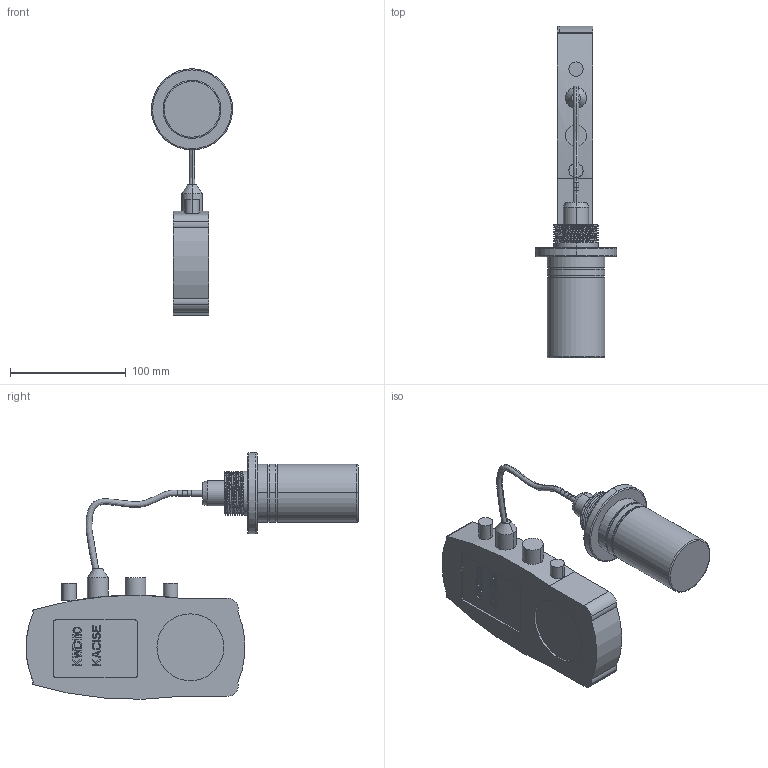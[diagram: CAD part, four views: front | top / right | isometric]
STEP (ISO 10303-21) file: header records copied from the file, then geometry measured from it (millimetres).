
FILE_DESCRIPTION((''),'2;1');
FILE_NAME('ASM0012_ASM','2025-12-29T17:39:20',('28740194'),(''),'CREO PARAMETRIC BY PTC INC, 2024063','CREO PARAMETRIC BY PTC INC, 2024063','');
FILE_SCHEMA(('CONFIG_CONTROL_DESIGN'));
Length unit declared in the file: millimetre
Products named in the file (3): KWD-100; KWS-W50; ASM0012_ASM
Assembly tree (2 placements, depth 2):
  ASM0012_ASM
    KWD-100
    KWS-W50
Bounding box: 69.99 x 286.25 x 212.54 mm (x, y, z)
Volume: 697976.7 mm3; surface area: 80642.1 mm2
Topology: 2 solids, 2 shells, 372 faces, 992 edges, 653 vertices
Faces by surface type: plane 286, cylinder 61, bspline 15, torus 6, cone 4
Entity records: 16081 total; most frequent: CARTESIAN_POINT 6802, ORIENTED_EDGE 1984, DIRECTION 1748, EDGE_CURVE 992, VECTOR 820, LINE 820, VERTEX_POINT 653, AXIS2_PLACEMENT_3D 464
